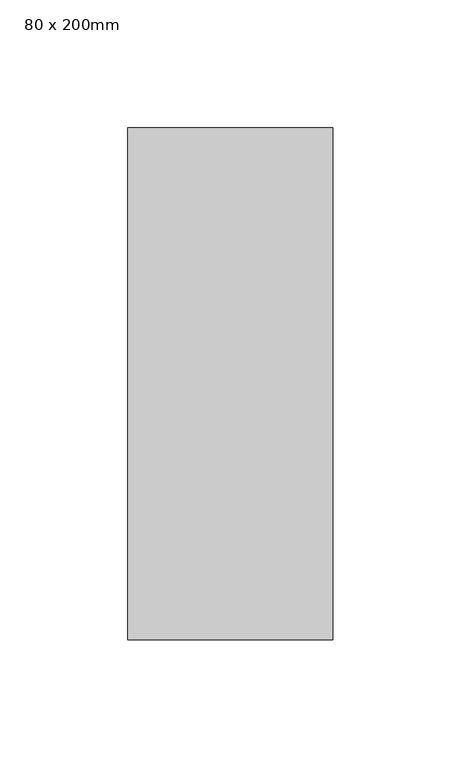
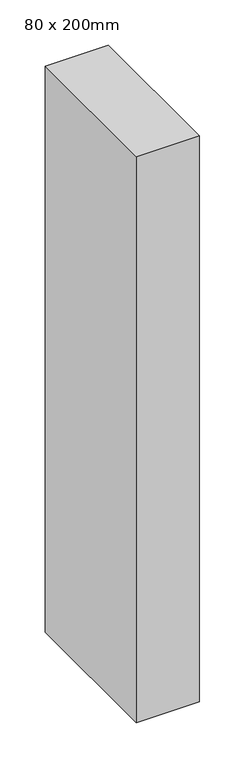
"""IFC4 building model written with IfcOpenShell, lengths in millimetres: member geometry, 矩形竖梃 : 80 x 200mm."""

import ifcopenshell
import ifcopenshell.guid

model = None  # the IFC model being written
_history = None  # IfcOwnerHistory: only IFC2X3 demands one
_inside = {}  # id of a spatial element -> (the spatial element, [elements in it])
_under = {}  # id of a project, library or spatial element -> (it, [spatial elements below it])
_declared = {}  # id of a project -> (the project, [libraries it declares])
_typed = {}  # id of a type object -> (the type object, [elements of that type])
_made_of = {}  # id of a material, layer set ... -> (it, [elements and type objects made of it])


def new_model(schema):
    """Start an empty IFC model of exactly this schema.

    Asked for "IFC4X3", IfcOpenShell would pick the latest addendum, in which some entities
    have other attributes; the version numbers below select the first issue.
    IFC2X3 requires an IfcOwnerHistory on every rooted entity: one is made here for all.
    """
    global model, _history
    if schema == "IFC4X3":
        model = ifcopenshell.file(schema_version=(4, 3, 0, 0))
    else:
        model = ifcopenshell.file(schema=schema)
    _inside.clear()
    _under.clear()
    _declared.clear()
    _typed.clear()
    _made_of.clear()
    _history = None
    if model.schema == "IFC2X3":
        org = make("IfcOrganization", Name="unknown")
        user = make(
            "IfcPersonAndOrganization",
            ThePerson=make("IfcPerson", FamilyName="unknown"),
            TheOrganization=org,
        )
        app = make(
            "IfcApplication",
            ApplicationDeveloper=org,
            Version="unknown",
            ApplicationFullName="unknown",
            ApplicationIdentifier="unknown",
        )
        _history = make(
            "IfcOwnerHistory",
            OwningUser=user,
            OwningApplication=app,
            ChangeAction="ADDED",
            CreationDate=0,
        )
    return model


def make(cls, **values):
    """One entity of the class cls with the attributes given. An attribute that is None is left unset."""
    return model.create_entity(
        cls, **{name: value for name, value in values.items() if value is not None}
    )


def rooted(cls, **values):
    """An entity with a GlobalId (a new one), such as an element, a storey or a relation."""
    return make(cls, GlobalId=ifcopenshell.guid.new(), OwnerHistory=_history, **values)


def si_unit(unit_type, name, prefix=None):
    """IfcSIUnit, for example si_unit("LENGTHUNIT", "METRE", prefix="MILLI")."""
    return make("IfcSIUnit", UnitType=unit_type, Prefix=prefix, Name=name)


def assignment(units):
    """IfcUnitAssignment: the units of a project."""
    return None if units is None else make("IfcUnitAssignment", Units=units)


def point(xyz):
    """IfcCartesianPoint."""
    return None if xyz is None else make("IfcCartesianPoint", Coordinates=xyz)


def direction(xyz):
    """IfcDirection."""
    return None if xyz is None else make("IfcDirection", DirectionRatios=xyz)


def frame(location, z_axis=None, x_axis=None):
    """IfcAxis2Placement3D, a coordinate frame: its origin and axes. An axis left out is left unset."""
    return make(
        "IfcAxis2Placement3D",
        Location=point(location),
        Axis=direction(z_axis),
        RefDirection=direction(x_axis),
    )


def origin():
    """The frame at (0, 0, 0) with its axes left unset."""
    return frame((0.0, 0.0, 0.0))


def place(relative_to, where):
    """IfcLocalPlacement: puts the frame where relative to a parent placement (None: the world)."""
    return make(
        "IfcLocalPlacement", PlacementRelTo=relative_to, RelativePlacement=where
    )


def context(
    kind, dimensions, precision=None, world=None, true_north=None, identifier=None
):
    """IfcGeometricRepresentationContext, for example the 3D "Model" context."""
    return make(
        "IfcGeometricRepresentationContext",
        ContextIdentifier=identifier,
        ContextType=kind,
        CoordinateSpaceDimension=dimensions,
        Precision=precision,
        WorldCoordinateSystem=world,
        TrueNorth=true_north,
    )


def project(units=None, contexts=None):
    """IfcProject with its units and contexts."""
    return rooted(
        "IfcProject",
        Name="project",
        RepresentationContexts=contexts,
        UnitsInContext=assignment(units),
    )


def spatial(cls, under=None, at=None, **own):
    """A site, building, storey or space (cls), placed at a placement, below another one or the project."""
    s = rooted(cls, ObjectPlacement=at, **own)
    if under is not None:
        _under.setdefault(under.id(), (under, []))[1].append(s)
    return s


def polyline(points):
    """IfcPolyline through the points."""
    return make("IfcPolyline", Points=[point(p) for p in points])


def outline(outer, holes=None, kind="AREA"):
    """IfcArbitraryClosedProfileDef: a profile drawn as a closed curve; with holes, ...WithVoids."""
    if holes is None:
        return make("IfcArbitraryClosedProfileDef", ProfileType=kind, OuterCurve=outer)
    return make(
        "IfcArbitraryProfileDefWithVoids",
        ProfileType=kind,
        OuterCurve=outer,
        InnerCurves=holes,
    )


def extrude(swept, where, along, depth):
    """IfcExtrudedAreaSolid: the profile swept, set in the frame where, extruded along a direction by depth."""
    return make(
        "IfcExtrudedAreaSolid",
        SweptArea=swept,
        Position=where,
        ExtrudedDirection=direction(along),
        Depth=depth,
    )


def shape(context_of_items, identifier, shape_type, items):
    """IfcShapeRepresentation: the items that make up one representation, for example the "Body"."""
    return make(
        "IfcShapeRepresentation",
        ContextOfItems=context_of_items,
        RepresentationIdentifier=identifier,
        RepresentationType=shape_type,
        Items=items,
    )


def source(mapping_origin, context_of_items, identifier, shape_type, items):
    """IfcRepresentationMap: a shape defined once, which mapped items show again and again."""
    return make(
        "IfcRepresentationMap",
        MappingOrigin=mapping_origin,
        MappedRepresentation=shape(context_of_items, identifier, shape_type, items),
    )


def transform(
    local_origin,
    x_axis=None,
    y_axis=None,
    z_axis=None,
    scale=None,
    scale2=None,
    scale3=None,
    uniform=True,
):
    """IfcCartesianTransformationOperator3D, or its non-uniform kind. x_axis, y_axis, z_axis: its Axis1, 2, 3."""
    if uniform:
        return make(
            "IfcCartesianTransformationOperator3D",
            Axis1=direction(x_axis),
            Axis2=direction(y_axis),
            LocalOrigin=point(local_origin),
            Scale=scale,
            Axis3=direction(z_axis),
        )
    return make(
        "IfcCartesianTransformationOperator3DnonUniform",
        Axis1=direction(x_axis),
        Axis2=direction(y_axis),
        LocalOrigin=point(local_origin),
        Scale=scale,
        Axis3=direction(z_axis),
        Scale2=scale2,
        Scale3=scale3,
    )


def mapped(mapping_source, mapping_target):
    """IfcMappedItem: shows the shape of a source again, moved by a transform."""
    return make(
        "IfcMappedItem", MappingSource=mapping_source, MappingTarget=mapping_target
    )


def made_of(thing, what):
    """Note that an element or type object is made of a material, layer set ...; save() writes the relation."""
    if what is not None:
        _made_of.setdefault(what.id(), (what, []))[1].append(thing)
    return thing


def element(
    cls,
    number,
    at=None,
    inside=None,
    cuts=None,
    type_object=None,
    material=None,
    context=None,
    identifier="Body",
    shape_type=None,
    held_by="IfcProductDefinitionShape",
    body=None,
    shapes=None,
    **own,
):
    """One element of the class cls, such as IfcWall. Its Tag is "e" and its number.

    at: its placement. inside: the storey or other place that contains it. cuts: it is an
    opening in that element (IfcRelVoidsElement). A single representation is given by context,
    identifier, shape_type and body (its items); several are given by shapes. held_by: the class
    of the entity that holds the representations. save() writes the other relations.
    """
    e = rooted(cls, Tag="e%d" % number, ObjectPlacement=at, **own)
    if body is not None:
        shapes = [shape(context, identifier, shape_type, body)]
    if shapes is not None:
        e.Representation = make(held_by, Representations=shapes)
    if inside is not None:
        _inside.setdefault(inside.id(), (inside, []))[1].append(e)
    if cuts is not None:
        rooted(
            "IfcRelVoidsElement", RelatingBuildingElement=cuts, RelatedOpeningElement=e
        )
    if type_object is not None:
        _typed.setdefault(type_object.id(), (type_object, []))[1].append(e)
    return made_of(e, material)


def aggregate(whole, parts):
    """IfcRelAggregates: a whole, such as a stair, and the parts it consists of."""
    return rooted("IfcRelAggregates", RelatingObject=whole, RelatedObjects=parts)


def save(model, path):
    """Write the relations noted so far, then the file.

    IfcRelAggregates (storeys below a building ...), IfcRelContainedInSpatialStructure (elements
    in a storey), IfcRelDefinesByType, IfcRelAssociatesMaterial and IfcRelDeclares: one each for
    every whole, place, type object, material and project.
    """
    for whole, parts in _under.values():
        aggregate(whole, parts)
    for where, things in _inside.values():
        rooted(
            "IfcRelContainedInSpatialStructure",
            RelatedElements=things,
            RelatingStructure=where,
        )
    for kind, things in _typed.values():
        rooted("IfcRelDefinesByType", RelatedObjects=things, RelatingType=kind)
    for what, things in _made_of.values():
        rooted("IfcRelAssociatesMaterial", RelatedObjects=things, RelatingMaterial=what)
    for by, libraries in _declared.values():
        rooted("IfcRelDeclares", RelatingContext=by, RelatedDefinitions=libraries)
    model.write(path)


def member_80_x_200mm_ca749dba(model_context):
    return source(origin(), model_context, "Body", "SweptSolid", [
        extrude(outline(polyline([(40.0, 100.0), (40.0, -100.0), (-40.0, -100.0), (-40.0, 100.0), (40.0, 100.0)])), frame((0.0, 0.0, -760.0), z_axis=(0.0, 0.0, 1.0), x_axis=(1.0, 0.0, 0.0)), (0.0, 0.0, 1.0), 760.0),
    ])


if __name__ == "__main__":
    model = new_model("IFC4")
    model_context = context("Model", 3, world=origin())
    ifc_project = project(units=[si_unit("LENGTHUNIT", "METRE", prefix="MILLI")], contexts=[model_context])
    site = spatial("IfcSite", under=ifc_project)
    building = spatial("IfcBuilding", under=site)
    placement = place(None, origin())
    member_80_x_200mm_shape = member_80_x_200mm_ca749dba(model_context)
    element("IfcMember", 1, ObjectType="矩形竖梃 : 80 x 200mm", at=placement, inside=building, context=model_context, shape_type="MappedRepresentation", body=[
        mapped(member_80_x_200mm_shape, transform((0.0, 0.0, 0.0), x_axis=(1.0, 0.0, 0.0), y_axis=(0.0, 1.0, 0.0), z_axis=(0.0, 0.0, 1.0))),
    ])
    save(model, "model.ifc")
